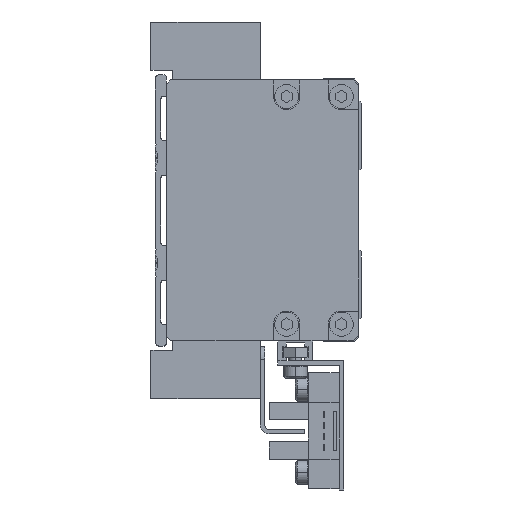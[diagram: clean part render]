
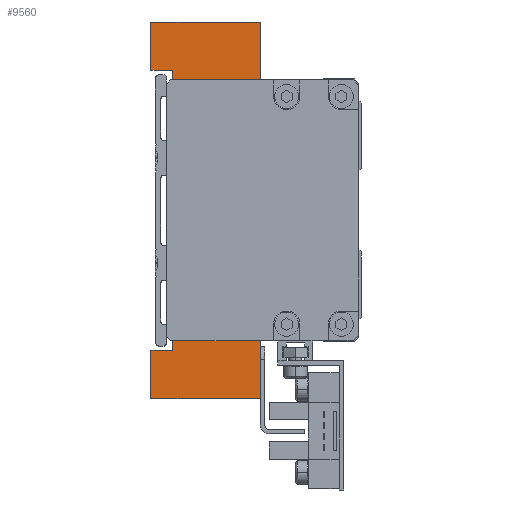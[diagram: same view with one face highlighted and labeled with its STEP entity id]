
A CAD part, left-side view. The second image highlights one B-rep face of the part: STEP entity #9560.
In plain terms, the highlighted planar face has unit normal (-1, 0, 0).
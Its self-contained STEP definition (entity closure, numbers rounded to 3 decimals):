
#133 = CARTESIAN_POINT ( 'NONE',  ( -77., 0., 28. ) ) ;
#315 = EDGE_LOOP ( 'NONE', ( #36129, #24005, #40141, #912, #20126, #28126, #12142, #26484, #24657, #39569, #34493, #25604, #31844, #4859, #37796, #893, #27970, #36295 ) ) ;
#506 = LINE ( 'NONE', #19587, #1994 ) ;
#585 = LINE ( 'NONE', #19559, #31369 ) ;
#772 = VECTOR ( 'NONE', #1400, 1000. ) ;
#893 = ORIENTED_EDGE ( 'NONE', *, *, #24340, .F. ) ;
#912 = ORIENTED_EDGE ( 'NONE', *, *, #39998, .F. ) ;
#1299 = DIRECTION ( 'NONE',  ( 0., 0., 1. ) ) ;
#1400 = DIRECTION ( 'NONE',  ( 0., 0., -1. ) ) ;
#1464 = VECTOR ( 'NONE', #4774, 1000. ) ;
#1696 = VECTOR ( 'NONE', #34414, 1000. ) ;
#1933 = VERTEX_POINT ( 'NONE', #24709 ) ;
#1994 = VECTOR ( 'NONE', #23276, 1000. ) ;
#2700 = VERTEX_POINT ( 'NONE', #39341 ) ;
#2885 = EDGE_CURVE ( 'NONE', #34605, #10034, #11228, .T. ) ;
#2960 = DIRECTION ( 'NONE',  ( 0., -1., 0. ) ) ;
#3053 = EDGE_CURVE ( 'NONE', #9781, #29996, #23852, .T. ) ;
#3436 = EDGE_CURVE ( 'NONE', #6675, #36612, #10577, .T. ) ;
#3473 = EDGE_CURVE ( 'NONE', #37677, #8611, #40437, .T. ) ;
#3555 = VERTEX_POINT ( 'NONE', #3915 ) ;
#3829 = AXIS2_PLACEMENT_3D ( 'NONE', #21487, #11449, #15071 ) ;
#3915 = CARTESIAN_POINT ( 'NONE',  ( -77., 0., -43. ) ) ;
#4016 = VERTEX_POINT ( 'NONE', #22377 ) ;
#4024 = EDGE_CURVE ( 'NONE', #8611, #29292, #26716, .T. ) ;
#4033 = VECTOR ( 'NONE', #29148, 1000. ) ;
#4059 = DIRECTION ( 'NONE',  ( 0., 0., 1. ) ) ;
#4634 = CARTESIAN_POINT ( 'NONE',  ( -77., 5., 21. ) ) ;
#4774 = DIRECTION ( 'NONE',  ( 0., 1., 0. ) ) ;
#4859 = ORIENTED_EDGE ( 'NONE', *, *, #2885, .F. ) ;
#5918 = CARTESIAN_POINT ( 'NONE',  ( -77., 9., -21. ) ) ;
#5942 = CARTESIAN_POINT ( 'NONE',  ( -77., 25., -32. ) ) ;
#6196 = LINE ( 'NONE', #34133, #1696 ) ;
#6675 = VERTEX_POINT ( 'NONE', #13020 ) ;
#7391 = CARTESIAN_POINT ( 'NONE',  ( -77., 25., 43. ) ) ;
#7392 = CARTESIAN_POINT ( 'NONE',  ( -77., 5., 28. ) ) ;
#8219 = PLANE ( 'NONE',  #3829 ) ;
#8339 = LINE ( 'NONE', #20698, #24494 ) ;
#8611 = VERTEX_POINT ( 'NONE', #24282 ) ;
#8835 = CARTESIAN_POINT ( 'NONE',  ( -77., 5., -28. ) ) ;
#9527 = CARTESIAN_POINT ( 'NONE',  ( -77., 9., -21. ) ) ;
#9560 = ADVANCED_FACE ( 'NONE', ( #12294 ), #8219, .F. ) ;
#9781 = VERTEX_POINT ( 'NONE', #28947 ) ;
#10034 = VERTEX_POINT ( 'NONE', #11255 ) ;
#10124 = EDGE_CURVE ( 'NONE', #10034, #3555, #6196, .T. ) ;
#10577 = LINE ( 'NONE', #5918, #25748 ) ;
#11228 = LINE ( 'NONE', #34208, #27905 ) ;
#11255 = CARTESIAN_POINT ( 'NONE',  ( -77., 0., -28. ) ) ;
#11449 = DIRECTION ( 'NONE',  ( 1., 0., 0. ) ) ;
#11520 = DIRECTION ( 'NONE',  ( 0., 0., -1. ) ) ;
#11577 = VERTEX_POINT ( 'NONE', #4634 ) ;
#11890 = EDGE_CURVE ( 'NONE', #14260, #9781, #585, .T. ) ;
#12142 = ORIENTED_EDGE ( 'NONE', *, *, #21235, .F. ) ;
#12294 = FACE_OUTER_BOUND ( 'NONE', #315, .T. ) ;
#12723 = VERTEX_POINT ( 'NONE', #5942 ) ;
#12976 = EDGE_CURVE ( 'NONE', #4016, #11577, #506, .T. ) ;
#13020 = CARTESIAN_POINT ( 'NONE',  ( -77., 9., -21. ) ) ;
#13189 = VERTEX_POINT ( 'NONE', #34403 ) ;
#14260 = VERTEX_POINT ( 'NONE', #21746 ) ;
#15071 = DIRECTION ( 'NONE',  ( 0., 0., -1. ) ) ;
#15260 = EDGE_CURVE ( 'NONE', #12723, #14260, #8339, .T. ) ;
#15526 = LINE ( 'NONE', #30889, #1464 ) ;
#16618 = DIRECTION ( 'NONE',  ( 0., 1., 0. ) ) ;
#17063 = CARTESIAN_POINT ( 'NONE',  ( -77., 25., 32. ) ) ;
#19146 = DIRECTION ( 'NONE',  ( 0., 1., 0. ) ) ;
#19559 = CARTESIAN_POINT ( 'NONE',  ( -77., 20., -32. ) ) ;
#19587 = CARTESIAN_POINT ( 'NONE',  ( -77., 9., 21. ) ) ;
#20066 = VECTOR ( 'NONE', #4059, 1000. ) ;
#20126 = ORIENTED_EDGE ( 'NONE', *, *, #4024, .F. ) ;
#20453 = CARTESIAN_POINT ( 'NONE',  ( -77., 25., -43. ) ) ;
#20698 = CARTESIAN_POINT ( 'NONE',  ( -77., 25., -32. ) ) ;
#20700 = LINE ( 'NONE', #27639, #27769 ) ;
#21235 = EDGE_CURVE ( 'NONE', #29996, #37677, #29202, .T. ) ;
#21487 = CARTESIAN_POINT ( 'NONE',  ( -77., 10., 0. ) ) ;
#21746 = CARTESIAN_POINT ( 'NONE',  ( -77., 20., -32. ) ) ;
#22239 = DIRECTION ( 'NONE',  ( 0., -1., 0. ) ) ;
#22377 = CARTESIAN_POINT ( 'NONE',  ( -77., 9., 21. ) ) ;
#22605 = LINE ( 'NONE', #133, #30179 ) ;
#22671 = DIRECTION ( 'NONE',  ( 0., 1., 0. ) ) ;
#22989 = CARTESIAN_POINT ( 'NONE',  ( -77., 25., 32. ) ) ;
#23036 = CARTESIAN_POINT ( 'NONE',  ( -77., 10., 21. ) ) ;
#23276 = DIRECTION ( 'NONE',  ( 0., -1., 0. ) ) ;
#23852 = LINE ( 'NONE', #32765, #40032 ) ;
#23943 = LINE ( 'NONE', #36786, #772 ) ;
#24005 = ORIENTED_EDGE ( 'NONE', *, *, #12976, .T. ) ;
#24193 = CARTESIAN_POINT ( 'NONE',  ( -77., 5., 28. ) ) ;
#24282 = CARTESIAN_POINT ( 'NONE',  ( -77., 0., 43. ) ) ;
#24340 = EDGE_CURVE ( 'NONE', #6675, #2700, #39083, .T. ) ;
#24481 = LINE ( 'NONE', #23036, #27996 ) ;
#24494 = VECTOR ( 'NONE', #33959, 1000. ) ;
#24657 = ORIENTED_EDGE ( 'NONE', *, *, #11890, .F. ) ;
#24709 = CARTESIAN_POINT ( 'NONE',  ( -77., 25., -43. ) ) ;
#25604 = ORIENTED_EDGE ( 'NONE', *, *, #33323, .F. ) ;
#25748 = VECTOR ( 'NONE', #19146, 1000. ) ;
#26308 = EDGE_CURVE ( 'NONE', #2700, #34605, #20700, .T. ) ;
#26484 = ORIENTED_EDGE ( 'NONE', *, *, #3053, .F. ) ;
#26561 = DIRECTION ( 'NONE',  ( 0., -1., 0. ) ) ;
#26716 = LINE ( 'NONE', #29005, #4033 ) ;
#26735 = DIRECTION ( 'NONE',  ( 0., 0., -1. ) ) ;
#27639 = CARTESIAN_POINT ( 'NONE',  ( -77., 5., -21. ) ) ;
#27769 = VECTOR ( 'NONE', #11520, 1000. ) ;
#27905 = VECTOR ( 'NONE', #40751, 1000. ) ;
#27970 = ORIENTED_EDGE ( 'NONE', *, *, #3436, .T. ) ;
#27996 = VECTOR ( 'NONE', #26561, 1000. ) ;
#28126 = ORIENTED_EDGE ( 'NONE', *, *, #3473, .F. ) ;
#28180 = EDGE_CURVE ( 'NONE', #41349, #11577, #36769, .T. ) ;
#28646 = CARTESIAN_POINT ( 'NONE',  ( -77., 25., 43. ) ) ;
#28683 = VECTOR ( 'NONE', #26735, 1000. ) ;
#28793 = VECTOR ( 'NONE', #2960, 1000. ) ;
#28947 = CARTESIAN_POINT ( 'NONE',  ( -77., 20., 32. ) ) ;
#29005 = CARTESIAN_POINT ( 'NONE',  ( -77., 0., 43. ) ) ;
#29148 = DIRECTION ( 'NONE',  ( 0., 0., -1. ) ) ;
#29188 = DIRECTION ( 'NONE',  ( 0., 0., 1. ) ) ;
#29189 = CARTESIAN_POINT ( 'NONE',  ( -77., 0., 28. ) ) ;
#29202 = LINE ( 'NONE', #22989, #20066 ) ;
#29292 = VERTEX_POINT ( 'NONE', #29189 ) ;
#29466 = EDGE_CURVE ( 'NONE', #13189, #36612, #23943, .T. ) ;
#29996 = VERTEX_POINT ( 'NONE', #17063 ) ;
#30179 = VECTOR ( 'NONE', #22671, 1000. ) ;
#30475 = VECTOR ( 'NONE', #22239, 1000. ) ;
#30889 = CARTESIAN_POINT ( 'NONE',  ( -77., 0., -43. ) ) ;
#31369 = VECTOR ( 'NONE', #29188, 1000. ) ;
#31547 = VECTOR ( 'NONE', #1299, 1000. ) ;
#31844 = ORIENTED_EDGE ( 'NONE', *, *, #10124, .F. ) ;
#32765 = CARTESIAN_POINT ( 'NONE',  ( -77., 20., 32. ) ) ;
#33323 = EDGE_CURVE ( 'NONE', #3555, #1933, #15526, .T. ) ;
#33959 = DIRECTION ( 'NONE',  ( 0., -1., 0. ) ) ;
#34133 = CARTESIAN_POINT ( 'NONE',  ( -77., 0., -28. ) ) ;
#34208 = CARTESIAN_POINT ( 'NONE',  ( -77., 5., -28. ) ) ;
#34403 = CARTESIAN_POINT ( 'NONE',  ( -77., 10., 21. ) ) ;
#34414 = DIRECTION ( 'NONE',  ( 0., 0., -1. ) ) ;
#34493 = ORIENTED_EDGE ( 'NONE', *, *, #35433, .F. ) ;
#34605 = VERTEX_POINT ( 'NONE', #8835 ) ;
#35433 = EDGE_CURVE ( 'NONE', #1933, #12723, #39137, .T. ) ;
#36129 = ORIENTED_EDGE ( 'NONE', *, *, #36511, .T. ) ;
#36295 = ORIENTED_EDGE ( 'NONE', *, *, #29466, .F. ) ;
#36511 = EDGE_CURVE ( 'NONE', #13189, #4016, #24481, .T. ) ;
#36612 = VERTEX_POINT ( 'NONE', #36982 ) ;
#36769 = LINE ( 'NONE', #7392, #28683 ) ;
#36786 = CARTESIAN_POINT ( 'NONE',  ( -77., 10., 21. ) ) ;
#36982 = CARTESIAN_POINT ( 'NONE',  ( -77., 10., -21. ) ) ;
#37677 = VERTEX_POINT ( 'NONE', #7391 ) ;
#37796 = ORIENTED_EDGE ( 'NONE', *, *, #26308, .F. ) ;
#39083 = LINE ( 'NONE', #9527, #30475 ) ;
#39137 = LINE ( 'NONE', #20453, #31547 ) ;
#39341 = CARTESIAN_POINT ( 'NONE',  ( -77., 5., -21. ) ) ;
#39569 = ORIENTED_EDGE ( 'NONE', *, *, #15260, .F. ) ;
#39998 = EDGE_CURVE ( 'NONE', #29292, #41349, #22605, .T. ) ;
#40032 = VECTOR ( 'NONE', #16618, 1000. ) ;
#40141 = ORIENTED_EDGE ( 'NONE', *, *, #28180, .F. ) ;
#40437 = LINE ( 'NONE', #28646, #28793 ) ;
#40751 = DIRECTION ( 'NONE',  ( 0., -1., 0. ) ) ;
#41349 = VERTEX_POINT ( 'NONE', #24193 ) ;
